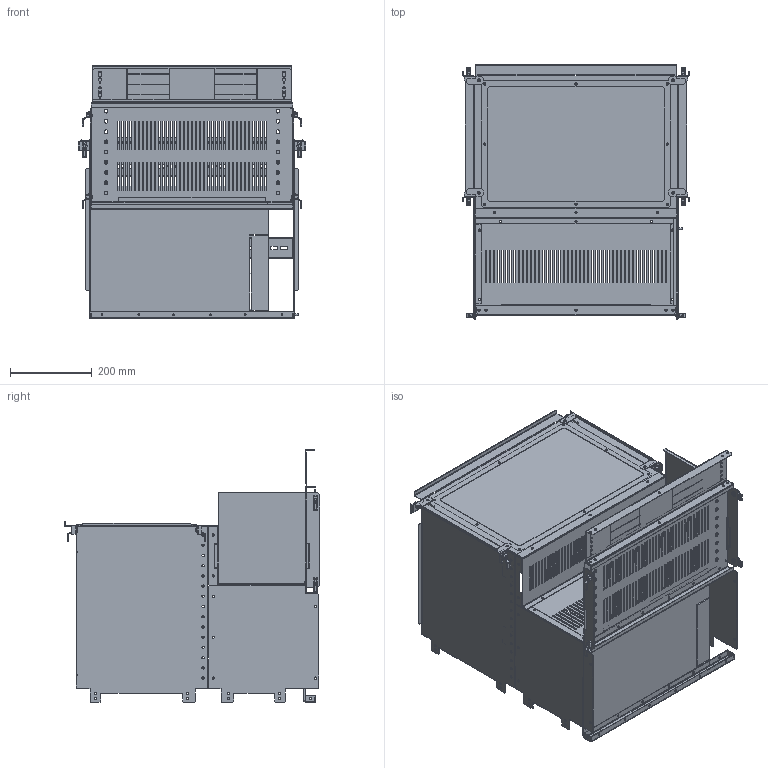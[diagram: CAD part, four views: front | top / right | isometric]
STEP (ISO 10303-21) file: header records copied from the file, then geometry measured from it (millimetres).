
FILE_DESCRIPTION(('CAx-IF Rec.Pracs.---Model Styling and Organization---1.2---2011-12-15','CAx-IF Rec.Pracs.---Geometric and Assembly Validation Properties---4.1---2014-06-16','CAx-IF Rec.Pracs.---PMI Polyline Presentation---2.0---2013-05-24'),'2;1');
FILE_NAME('R5FCMR66046 (W).stp','2021-05-06T02:38:36+03:00',(''),(''),'STEP Interface 4.4 by CT CoreTechnologie','3D_Evolution4.4 by CT CoreTechnologie','');
FILE_SCHEMA(('AUTOMOTIVE_DESIGN { 1 0 10303 214 1 1 1 1 }'));
Length unit declared in the file: millimetre
Products named in the file (21): R5FCMR66046 (W); AC00C485; M6x16-DIN 7985 ISR_thread; RB.0705.00.00.1_-01; RB.0706.00.00.1_-01; RB.0697.00.00.1_-01; RB.0708.00.00.1_-00; RB.0696.00.00.1_-00; RB.0694.00.00.1_-00; RB.0691.00.00.1_-00; RB.0700.00.00.1_-01; RB.0695.00.00.1_-00; RB.0546.00.00.0_-01; RB.0707.00.00.1_-01; RB.0699.00.00.1_-01; RB.0698.00.00.1_-01; RB.0546.00.00.0_-00; RB.0705.00.00.1_-05; M5x12-DIN7500C_stright; RB.0706.00.00.1_-03; RB.1165.00.00.0_-01
Assembly tree (37 placements, depth 2):
  R5FCMR66046 (W)
    AC00C485  x8
    M6x16-DIN 7985 ISR_thread  x8
    RB.0705.00.00.1_-01
    RB.0706.00.00.1_-01
    RB.0697.00.00.1_-01
    RB.0708.00.00.1_-00
    RB.0696.00.00.1_-00  x2
    RB.0694.00.00.1_-00
    RB.0691.00.00.1_-00
    RB.0700.00.00.1_-01
    RB.0695.00.00.1_-00
    RB.0546.00.00.0_-01  x2
    RB.0707.00.00.1_-01
    RB.0699.00.00.1_-01
    RB.0698.00.00.1_-01
    RB.0546.00.00.0_-00  x2
    RB.0705.00.00.1_-05
    M5x12-DIN7500C_stright
    RB.0706.00.00.1_-03
    RB.1165.00.00.0_-01
Bounding box: 555.5 x 624 x 618.5 mm (x, y, z)
Surface area: 2844690.3 mm2 (no closed solid volume)
Topology: 0 solids, 55 shells, 2745 faces, 7509 edges, 4842 vertices
Faces by surface type: plane 1733, cylinder 888, bspline 124
Entity records: 65006 total; most frequent: CARTESIAN_POINT 11670, ORIENTED_EDGE 10856, DIRECTION 10312, EDGE_CURVE 5428, VECTOR 4362, LINE 4362, VERTEX_POINT 3561, AXIS2_PLACEMENT_3D 2975
